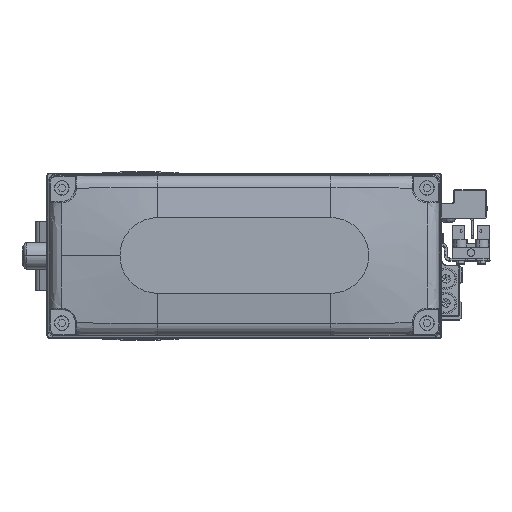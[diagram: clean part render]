
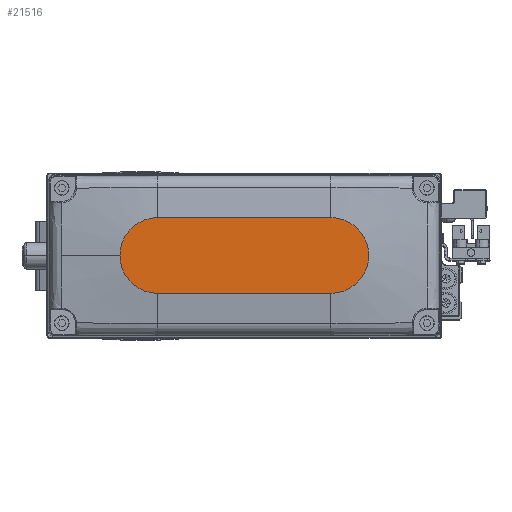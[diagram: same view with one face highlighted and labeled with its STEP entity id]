
A CAD part, top view. The second image highlights one B-rep face of the part: STEP entity #21516.
In plain terms, the highlighted planar face has unit normal (0, 0, 1).
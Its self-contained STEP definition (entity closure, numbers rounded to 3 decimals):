
#758 = CARTESIAN_POINT ( 'NONE',  ( 32., 14., 35. ) ) ;
#1309 = EDGE_CURVE ( 'NONE', #37061, #36217, #8111, .T. ) ;
#3620 = AXIS2_PLACEMENT_3D ( 'NONE', #11374, #24813, #38263 ) ;
#3827 = DIRECTION ( 'NONE',  ( 1., 0., 0. ) ) ;
#4753 = CARTESIAN_POINT ( 'NONE',  ( 46., 0., 35. ) ) ;
#6666 = DIRECTION ( 'NONE',  ( -1., 0., 0. ) ) ;
#8111 = LINE ( 'NONE', #21559, #23114 ) ;
#8197 = DIRECTION ( 'NONE',  ( 0., 0., 1. ) ) ;
#8258 = DIRECTION ( 'NONE',  ( 0., 0., 1. ) ) ;
#9693 = VERTEX_POINT ( 'NONE', #31004 ) ;
#11374 = CARTESIAN_POINT ( 'NONE',  ( -32., 0., 35. ) ) ;
#11505 = FACE_OUTER_BOUND ( 'NONE', #33620, .T. ) ;
#13005 = ORIENTED_EDGE ( 'NONE', *, *, #15214, .T. ) ;
#14391 = CIRCLE ( 'NONE', #39011, 14. ) ;
#15214 = EDGE_CURVE ( 'NONE', #9693, #37061, #22595, .T. ) ;
#15926 = EDGE_CURVE ( 'NONE', #29376, #9693, #23425, .T. ) ;
#16719 = VERTEX_POINT ( 'NONE', #4753 ) ;
#17389 = ORIENTED_EDGE ( 'NONE', *, *, #1309, .T. ) ;
#17734 = VECTOR ( 'NONE', #6666, 1000. ) ;
#20577 = CARTESIAN_POINT ( 'NONE',  ( 32., 0., 35. ) ) ;
#21516 = ADVANCED_FACE ( 'NONE', ( #11505 ), #24938, .T. ) ;
#21559 = CARTESIAN_POINT ( 'NONE',  ( -32., -14., 35. ) ) ;
#21639 = DIRECTION ( 'NONE',  ( 1., 0., 0. ) ) ;
#21704 = DIRECTION ( 'NONE',  ( 1., 0., 0. ) ) ;
#22481 = EDGE_CURVE ( 'NONE', #36217, #16719, #14391, .T. ) ;
#22595 = CIRCLE ( 'NONE', #3620, 14. ) ;
#22958 = CIRCLE ( 'NONE', #28594, 14. ) ;
#23114 = VECTOR ( 'NONE', #34996, 1000. ) ;
#23425 = LINE ( 'NONE', #36872, #17734 ) ;
#24813 = DIRECTION ( 'NONE',  ( 0., 0., 1. ) ) ;
#24938 = PLANE ( 'NONE',  #27704 ) ;
#27704 = AXIS2_PLACEMENT_3D ( 'NONE', #38379, #8197, #21639 ) ;
#28594 = AXIS2_PLACEMENT_3D ( 'NONE', #38442, #8258, #21704 ) ;
#29376 = VERTEX_POINT ( 'NONE', #758 ) ;
#31004 = CARTESIAN_POINT ( 'NONE',  ( -32., 14., 35. ) ) ;
#31817 = ORIENTED_EDGE ( 'NONE', *, *, #15926, .T. ) ;
#33558 = ORIENTED_EDGE ( 'NONE', *, *, #37001, .T. ) ;
#33620 = EDGE_LOOP ( 'NONE', ( #31817, #13005, #17389, #33963, #33558 ) ) ;
#33963 = ORIENTED_EDGE ( 'NONE', *, *, #22481, .T. ) ;
#34014 = DIRECTION ( 'NONE',  ( 0., 0., 1. ) ) ;
#34996 = DIRECTION ( 'NONE',  ( 1., 0., 0. ) ) ;
#36217 = VERTEX_POINT ( 'NONE', #36992 ) ;
#36872 = CARTESIAN_POINT ( 'NONE',  ( -32., 14., 35. ) ) ;
#36992 = CARTESIAN_POINT ( 'NONE',  ( 32., -14., 35. ) ) ;
#37001 = EDGE_CURVE ( 'NONE', #16719, #29376, #22958, .T. ) ;
#37061 = VERTEX_POINT ( 'NONE', #42192 ) ;
#38263 = DIRECTION ( 'NONE',  ( 1., 0., 0. ) ) ;
#38379 = CARTESIAN_POINT ( 'NONE',  ( 0., 0., 35. ) ) ;
#38442 = CARTESIAN_POINT ( 'NONE',  ( 32., 0., 35. ) ) ;
#39011 = AXIS2_PLACEMENT_3D ( 'NONE', #20577, #34014, #3827 ) ;
#42192 = CARTESIAN_POINT ( 'NONE',  ( -32., -14., 35. ) ) ;
